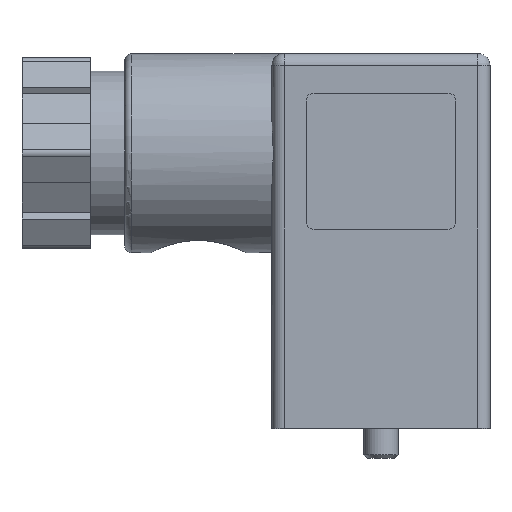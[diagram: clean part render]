
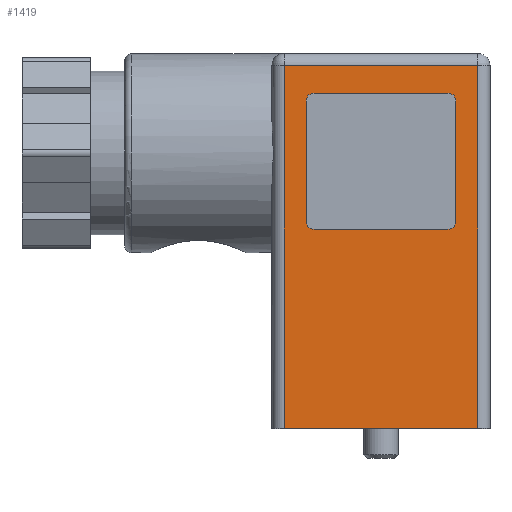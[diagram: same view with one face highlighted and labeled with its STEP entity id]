
A CAD part, top view. The second image highlights one B-rep face of the part: STEP entity #1419.
In plain terms, the highlighted planar face has unit normal (0, 0, 1).
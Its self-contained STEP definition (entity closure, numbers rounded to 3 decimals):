
#58=PLANE('',#4556);
#591=LINE('',#6469,#1022);
#592=LINE('',#6473,#1023);
#593=LINE('',#6475,#1024);
#594=LINE('',#6477,#1025);
#595=LINE('',#6481,#1026);
#596=LINE('',#6485,#1027);
#597=LINE('',#6489,#1028);
#598=LINE('',#6493,#1029);
#1022=VECTOR('',#5140,1.);
#1023=VECTOR('',#5145,1.);
#1024=VECTOR('',#5146,1.);
#1025=VECTOR('',#5147,1.);
#1026=VECTOR('',#5150,1.);
#1027=VECTOR('',#5153,1.);
#1028=VECTOR('',#5156,1.);
#1029=VECTOR('',#5159,1.);
#1419=ADVANCED_FACE('',(#1642,#1643),#58,.F.);
#1642=FACE_BOUND('',#1734,.T.);
#1643=FACE_BOUND('',#1735,.T.);
#1734=EDGE_LOOP('',(#2155,#2156,#2157,#2158));
#1735=EDGE_LOOP('',(#2159,#2160,#2161,#2162,#2163,#2164,#2165,#2166));
#2155=ORIENTED_EDGE('',*,*,#3783,.T.);
#2156=ORIENTED_EDGE('',*,*,#3785,.T.);
#2157=ORIENTED_EDGE('',*,*,#3786,.F.);
#2158=ORIENTED_EDGE('',*,*,#3787,.F.);
#2159=ORIENTED_EDGE('',*,*,#3788,.T.);
#2160=ORIENTED_EDGE('',*,*,#3789,.F.);
#2161=ORIENTED_EDGE('',*,*,#3790,.T.);
#2162=ORIENTED_EDGE('',*,*,#3791,.F.);
#2163=ORIENTED_EDGE('',*,*,#3792,.T.);
#2164=ORIENTED_EDGE('',*,*,#3793,.F.);
#2165=ORIENTED_EDGE('',*,*,#3794,.T.);
#2166=ORIENTED_EDGE('',*,*,#3795,.F.);
#3334=VERTEX_POINT('',#6468);
#3335=VERTEX_POINT('',#6470);
#3336=VERTEX_POINT('',#6474);
#3337=VERTEX_POINT('',#6476);
#3338=VERTEX_POINT('',#6479);
#3339=VERTEX_POINT('',#6480);
#3340=VERTEX_POINT('',#6482);
#3341=VERTEX_POINT('',#6484);
#3342=VERTEX_POINT('',#6486);
#3343=VERTEX_POINT('',#6488);
#3344=VERTEX_POINT('',#6490);
#3345=VERTEX_POINT('',#6492);
#3783=EDGE_CURVE('',#3335,#3334,#591,.T.);
#3785=EDGE_CURVE('',#3334,#3336,#592,.T.);
#3786=EDGE_CURVE('',#3337,#3336,#593,.T.);
#3787=EDGE_CURVE('',#3335,#3337,#594,.T.);
#3788=EDGE_CURVE('',#3338,#3339,#4337,.T.);
#3789=EDGE_CURVE('',#3340,#3339,#595,.T.);
#3790=EDGE_CURVE('',#3340,#3341,#4338,.T.);
#3791=EDGE_CURVE('',#3342,#3341,#596,.T.);
#3792=EDGE_CURVE('',#3342,#3343,#4339,.T.);
#3793=EDGE_CURVE('',#3344,#3343,#597,.T.);
#3794=EDGE_CURVE('',#3344,#3345,#4340,.T.);
#3795=EDGE_CURVE('',#3338,#3345,#598,.T.);
#4337=CIRCLE('',#4552,0.6);
#4338=CIRCLE('',#4553,0.6);
#4339=CIRCLE('',#4554,0.6);
#4340=CIRCLE('',#4555,0.6);
#4552=AXIS2_PLACEMENT_3D('',#6478,#5148,#5149);
#4553=AXIS2_PLACEMENT_3D('',#6483,#5151,#5152);
#4554=AXIS2_PLACEMENT_3D('',#6487,#5154,#5155);
#4555=AXIS2_PLACEMENT_3D('',#6491,#5157,#5158);
#4556=AXIS2_PLACEMENT_3D('',#6494,#5160,#5161);
#5140=DIRECTION('',(0.,1.,0.));
#5145=DIRECTION('',(-1.,0.,0.));
#5146=DIRECTION('',(0.,1.,0.));
#5147=DIRECTION('',(-1.,0.,0.));
#5148=DIRECTION('',(0.,0.,-1.));
#5149=DIRECTION('',(-1.,0.,0.));
#5150=DIRECTION('',(-1.,0.,0.));
#5151=DIRECTION('',(0.,0.,-1.));
#5152=DIRECTION('',(-1.,0.,0.));
#5153=DIRECTION('',(0.,1.,0.));
#5154=DIRECTION('',(0.,0.,-1.));
#5155=DIRECTION('',(-1.,0.,0.));
#5156=DIRECTION('',(1.,0.,0.));
#5157=DIRECTION('',(0.,0.,-1.));
#5158=DIRECTION('',(-1.,0.,0.));
#5159=DIRECTION('',(0.,-1.,0.));
#5160=DIRECTION('',(0.,0.,-1.));
#5161=DIRECTION('',(-1.,0.,0.));
#6468=CARTESIAN_POINT('',(-46.238,16.91,-7.2));
#6469=CARTESIAN_POINT('',(-46.238,-9.69,-7.2));
#6470=CARTESIAN_POINT('',(-46.238,-9.69,-7.2));
#6473=CARTESIAN_POINT('',(-60.438,16.91,-7.2));
#6474=CARTESIAN_POINT('',(-60.438,16.91,-7.2));
#6475=CARTESIAN_POINT('',(-60.438,-9.69,-7.2));
#6476=CARTESIAN_POINT('',(-60.438,-9.69,-7.2));
#6477=CARTESIAN_POINT('',(-53.338,-9.69,-7.2));
#6478=CARTESIAN_POINT('',(-58.238,14.31,-7.2));
#6479=CARTESIAN_POINT('',(-58.838,14.31,-7.2));
#6480=CARTESIAN_POINT('',(-58.238,14.91,-7.2));
#6481=CARTESIAN_POINT('',(-60.438,14.91,-7.2));
#6482=CARTESIAN_POINT('',(-48.438,14.91,-7.2));
#6483=CARTESIAN_POINT('',(-48.438,14.31,-7.2));
#6484=CARTESIAN_POINT('',(-47.838,14.31,-7.2));
#6485=CARTESIAN_POINT('',(-47.838,17.81,-7.2));
#6486=CARTESIAN_POINT('',(-47.838,5.51,-7.2));
#6487=CARTESIAN_POINT('',(-48.438,5.51,-7.2));
#6488=CARTESIAN_POINT('',(-48.438,4.91,-7.2));
#6489=CARTESIAN_POINT('',(-60.438,4.91,-7.2));
#6490=CARTESIAN_POINT('',(-58.238,4.91,-7.2));
#6491=CARTESIAN_POINT('',(-58.238,5.51,-7.2));
#6492=CARTESIAN_POINT('',(-58.838,5.51,-7.2));
#6493=CARTESIAN_POINT('',(-58.838,17.81,-7.2));
#6494=CARTESIAN_POINT('',(-53.338,-9.69,-7.2));
